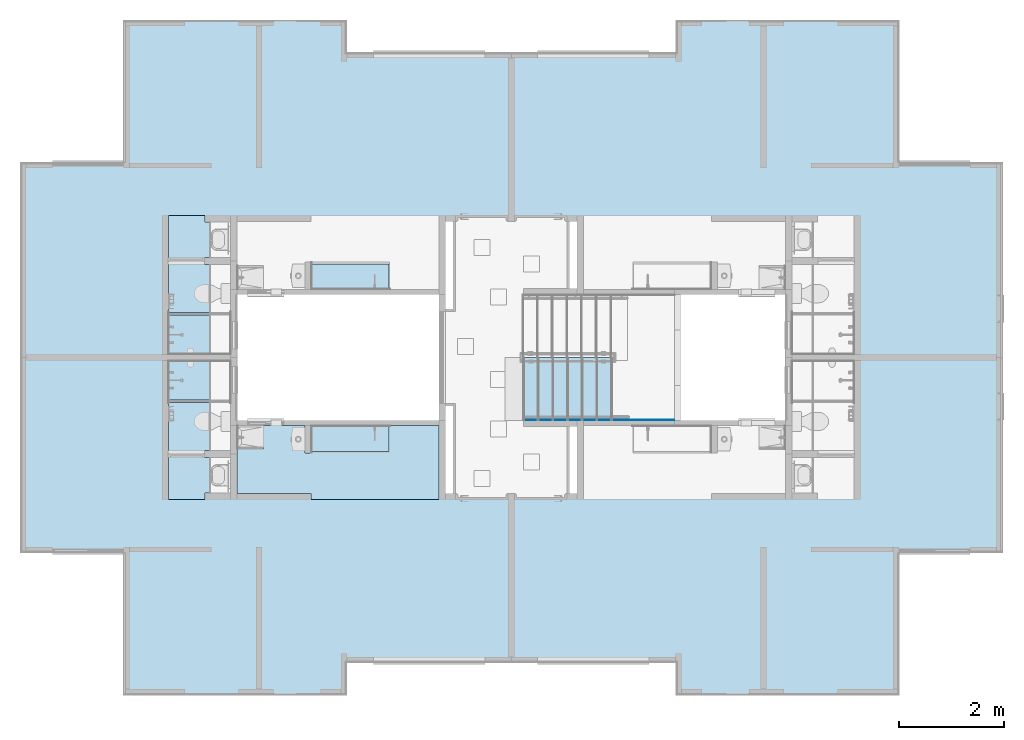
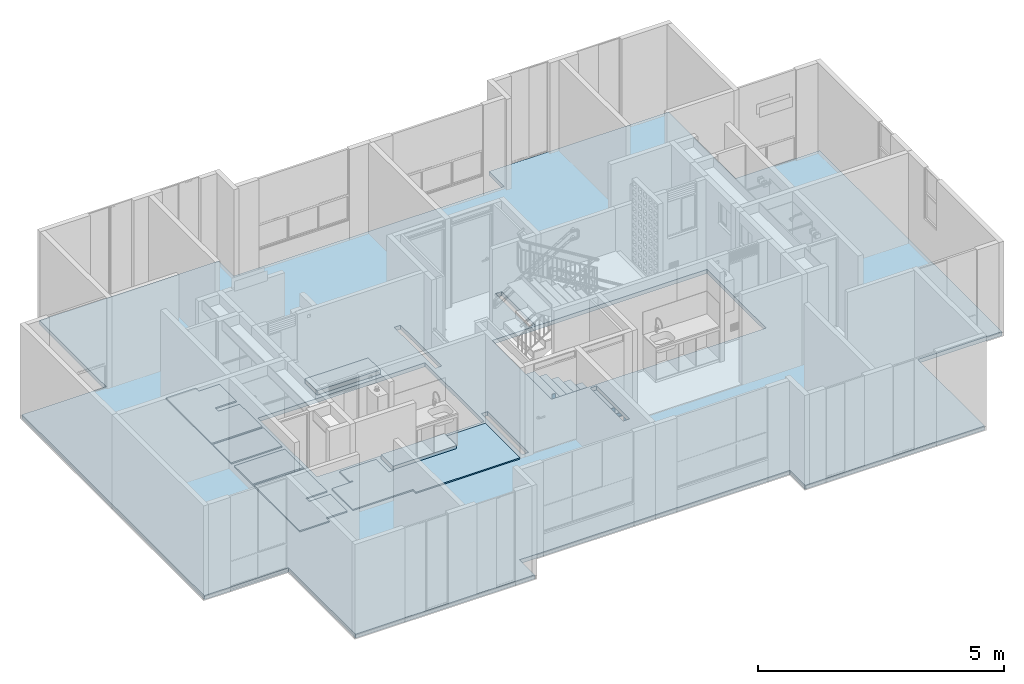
# One storey, part 1 of 48: 13 slabs.
"""IFC4 building model written with IfcOpenShell, lengths in metres."""

from ifc_helpers import new_model, entity, si_unit, converted_unit, derived_unit, direction, frame, origin, place, context, subcontext, project, spatial, indexed_curve, outline, extrude, material, constituent, constituent_set, type_object, element, save


model = new_model("IFC4")

# Units and contexts
model_context = context("Model", 3, precision=1e-05, world=origin(), true_north=direction((6.123031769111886e-17, 1.0)))
body_context = subcontext(model_context, "Body", "Model", "MODEL_VIEW")
ifc_project = project(units=[si_unit("LENGTHUNIT", "METRE"), si_unit("AREAUNIT", "SQUARE_METRE"), si_unit("VOLUMEUNIT", "CUBIC_METRE"), converted_unit("PLANEANGLEUNIT", "DEGREE", entity("IfcRatioMeasure", 0.017453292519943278), si_unit("PLANEANGLEUNIT", "RADIAN"), dimensions=[0, 0, 0, 0, 0, 0, 0]), si_unit("MASSUNIT", "GRAM", prefix="KILO"), derived_unit("MASSDENSITYUNIT", [(si_unit("MASSUNIT", "GRAM", prefix="KILO"), 1), (si_unit("LENGTHUNIT", "METRE"), -3)]), derived_unit("IONCONCENTRATIONUNIT", [(si_unit("MASSUNIT", "GRAM", prefix="KILO"), 1), (si_unit("LENGTHUNIT", "METRE"), -3)]), derived_unit("MOMENTOFINERTIAUNIT", [(si_unit("LENGTHUNIT", "METRE"), 4)]), si_unit("TIMEUNIT", "SECOND"), si_unit("FREQUENCYUNIT", "HERTZ"), si_unit("THERMODYNAMICTEMPERATUREUNIT", "DEGREE_CELSIUS"), derived_unit("THERMALTRANSMITTANCEUNIT", [(si_unit("MASSUNIT", "GRAM", prefix="KILO"), 1), (si_unit("THERMODYNAMICTEMPERATUREUNIT", "KELVIN"), -1), (si_unit("TIMEUNIT", "SECOND"), -3)]), derived_unit("THERMALCONDUCTANCEUNIT", [(si_unit("MASSUNIT", "GRAM", prefix="KILO"), 1), (si_unit("THERMODYNAMICTEMPERATUREUNIT", "KELVIN"), -1), (si_unit("TIMEUNIT", "SECOND"), -3), (si_unit("LENGTHUNIT", "METRE"), 1)]), derived_unit("VOLUMETRICFLOWRATEUNIT", [(si_unit("LENGTHUNIT", "METRE"), 3), (si_unit("TIMEUNIT", "SECOND"), -1)]), derived_unit("MASSFLOWRATEUNIT", [(si_unit("MASSUNIT", "GRAM", prefix="KILO"), 1), (si_unit("TIMEUNIT", "SECOND"), -1)]), derived_unit("ROTATIONALFREQUENCYUNIT", [(si_unit("TIMEUNIT", "SECOND"), -1)]), si_unit("ELECTRICCURRENTUNIT", "AMPERE"), si_unit("ELECTRICVOLTAGEUNIT", "VOLT"), si_unit("POWERUNIT", "WATT"), si_unit("FORCEUNIT", "NEWTON", prefix="KILO"), si_unit("ILLUMINANCEUNIT", "LUX"), si_unit("LUMINOUSFLUXUNIT", "LUMEN"), si_unit("LUMINOUSINTENSITYUNIT", "CANDELA"), derived_unit("USERDEFINED", [(si_unit("MASSUNIT", "GRAM", prefix="KILO"), -1), (si_unit("LENGTHUNIT", "METRE"), -2), (si_unit("TIMEUNIT", "SECOND"), 3), (si_unit("LUMINOUSFLUXUNIT", "LUMEN"), 1)]), derived_unit("USERDEFINED", [(si_unit("MASSUNIT", "GRAM", prefix="KILO"), 1), (si_unit("TIMEUNIT", "SECOND"), -3), (si_unit("LENGTHUNIT", "METRE"), 3), (si_unit("ELECTRICCURRENTUNIT", "AMPERE"), -2)]), derived_unit("SOUNDPOWERUNIT", [(si_unit("MASSUNIT", "GRAM", prefix="KILO"), 1), (si_unit("TIMEUNIT", "SECOND"), -3), (si_unit("LENGTHUNIT", "METRE"), 2)]), derived_unit("SOUNDPRESSUREUNIT", [(si_unit("MASSUNIT", "GRAM", prefix="KILO"), 1), (si_unit("LENGTHUNIT", "METRE"), -1), (si_unit("TIMEUNIT", "SECOND"), -2)]), derived_unit("LINEARVELOCITYUNIT", [(si_unit("LENGTHUNIT", "METRE"), 1), (si_unit("TIMEUNIT", "SECOND"), -1)]), si_unit("PRESSUREUNIT", "PASCAL"), derived_unit("USERDEFINED", [(si_unit("MASSUNIT", "GRAM", prefix="KILO"), 1), (si_unit("LENGTHUNIT", "METRE"), -2), (si_unit("TIMEUNIT", "SECOND"), -2)]), derived_unit("LINEARFORCEUNIT", [(si_unit("MASSUNIT", "GRAM", prefix="KILO"), 1), (si_unit("TIMEUNIT", "SECOND"), -2)]), derived_unit("PLANARFORCEUNIT", [(si_unit("MASSUNIT", "GRAM", prefix="KILO"), 1), (si_unit("LENGTHUNIT", "METRE"), -1), (si_unit("TIMEUNIT", "SECOND"), -2)]), derived_unit("SPECIFICHEATCAPACITYUNIT", [(si_unit("THERMODYNAMICTEMPERATUREUNIT", "KELVIN"), -1), (si_unit("LENGTHUNIT", "METRE"), 2), (si_unit("TIMEUNIT", "SECOND"), -2)]), derived_unit("HEATINGVALUEUNIT", [(si_unit("LENGTHUNIT", "METRE"), 2), (si_unit("TIMEUNIT", "SECOND"), -2)]), derived_unit("VAPORPERMEABILITYUNIT", [(si_unit("LENGTHUNIT", "METRE"), -1), (si_unit("TIMEUNIT", "SECOND"), 1)]), derived_unit("DYNAMICVISCOSITYUNIT", [(si_unit("MASSUNIT", "GRAM", prefix="KILO"), 1), (si_unit("TIMEUNIT", "SECOND"), -1), (si_unit("LENGTHUNIT", "METRE"), -1)]), derived_unit("THERMALEXPANSIONCOEFFICIENTUNIT", [(si_unit("THERMODYNAMICTEMPERATUREUNIT", "KELVIN"), -1)]), derived_unit("MODULUSOFELASTICITYUNIT", [(si_unit("MASSUNIT", "GRAM", prefix="KILO"), 1), (si_unit("LENGTHUNIT", "METRE"), -1), (si_unit("TIMEUNIT", "SECOND"), -2)]), derived_unit("ISOTHERMALMOISTURECAPACITYUNIT", [(si_unit("LENGTHUNIT", "METRE"), 3), (si_unit("MASSUNIT", "GRAM", prefix="KILO"), -1)]), derived_unit("MOISTUREDIFFUSIVITYUNIT", [(si_unit("TIMEUNIT", "SECOND"), -1), (si_unit("LENGTHUNIT", "METRE"), 2)])], contexts=[model_context])

# Site, building, storey
site_placement = place(None, origin())
site = spatial("IfcSite", under=ifc_project, at=site_placement, Name="Default", CompositionType="ELEMENT")
building_placement = place(site_placement, origin())
building = spatial("IfcBuilding", under=site, at=building_placement, CompositionType="ELEMENT")
storey_placement = place(building_placement, frame((0.0, 0.0, 7.050000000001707)))
storey = spatial("IfcBuildingStorey", under=building, at=storey_placement, Name="Nivel 4", CompositionType="ELEMENT", Elevation=7.050000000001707)

# Slabs
ifc_material_1 = material(Name="Ceramica 0.45m x 0.45m gris", Category="Materials")
ifc_constituent_1 = constituent(ifc_material_1, Name="Ceramica 0.45m x 0.45m gris", Category="Materials")
ifc_material_2 = material(Name="Mortero de pega", Category="Materials")
ifc_constituent_2 = constituent(ifc_material_2, Name="Mortero de pega", Category="Materials")
ifc_constituent_set_1 = constituent_set(constituents=[ifc_constituent_1, ifc_constituent_2], Name="Floor:C2030.20 - 0.45 x 0.45 - Enchape cerámico - Mortero de Pega + Cerámica gris")
slab_type_1 = type_object("IfcSlabType", Name="Floor:C2030.20 - 0.45 x 0.45 - Enchape cerámico - Mortero de Pega + Cerámica gris", PredefinedType="FLOOR", material=ifc_constituent_set_1)
slab_1_placement = place(storey_placement, origin())
element("IfcSlab", 1, at=slab_1_placement, inside=storey, type_object=slab_type_1, material=ifc_constituent_set_1, Name="Floor:C2030.20 - 0.45 x 0.45 - Enchape cerámico - Mortero de Pega + Cerámica gris", ObjectType="Floor:C2030.20 - 0.45 x 0.45 - Enchape cerámico - Mortero de Pega + Cerámica gris", PredefinedType="FLOOR", context=body_context, shape_type="SweptSolid", body=[
    extrude(outline(indexed_curve([(-0.592499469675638, -0.3749999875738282), (0.5924994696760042, -0.3749999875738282), (0.5924994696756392, 0.3749999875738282), (-0.5924994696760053, 0.3749999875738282), (-0.592499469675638, -0.3749999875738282)], self_intersect=False)), frame((3.3700005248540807, -5.990000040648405, 0.01999999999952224), z_axis=(0.0, 0.0, 1.0), x_axis=(-1.0, 0.0, 0.0)), (0.0, 0.0, 1.0), 0.009999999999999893),
    extrude(outline(indexed_curve([(-0.1950000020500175, -0.06099936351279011), (-0.19500000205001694, 0.4339995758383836), (-1.109999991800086, 0.43399957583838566), (-1.109999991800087, -0.7509993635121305), (0.7449999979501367, -0.750999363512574), (0.7449999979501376, -0.05600042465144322), (0.6199999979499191, -0.05600042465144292), (0.619999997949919, 0.4339995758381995), (-0.060000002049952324, 0.4339995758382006), (-0.060000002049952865, -0.06099936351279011), (-0.1950000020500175, -0.06099936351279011)], self_intersect=False)), frame((3.5285004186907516, -4.455000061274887, 0.019999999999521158), z_axis=(0.0, 0.0, -1.0), x_axis=(0.0, 1.0, 0.0)), (0.0, 0.0, -1.0), 0.009999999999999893),
    extrude(outline(indexed_curve([(-0.7509993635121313, -1.1099999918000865), (0.4339995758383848, -1.1099999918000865), (0.4339995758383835, -0.19500000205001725), (-0.06099936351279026, -0.1950000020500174), (-0.06099936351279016, -0.06000000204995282), (0.4339995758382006, -0.06000000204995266), (0.4339995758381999, 0.6199999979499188), (-0.05600042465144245, 0.6199999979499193), (-0.05600042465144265, 0.7449999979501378), (-0.750999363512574, 0.7449999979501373), (-0.7509993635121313, -1.1099999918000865)], self_intersect=False)), frame((3.5285004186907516, -4.455000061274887, 0.0)), (0.0, 0.0, 1.0), 0.019999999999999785),
    extrude(outline(indexed_curve([(-0.37499998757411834, -0.5924994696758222), (0.37499998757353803, -0.5924994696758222), (0.37499998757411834, 0.59249946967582), (-0.37499998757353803, 0.5924994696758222), (-0.37499998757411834, -0.5924994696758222)], self_intersect=False)), frame((3.37000052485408, -5.990000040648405, 0.0), z_axis=(0.0, 0.0, 1.0), x_axis=(0.0, 1.0, 0.0)), (0.0, 0.0, 1.0), 0.019999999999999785),
])
slab_2_placement = place(storey_placement, origin())
element("IfcSlab", 2, at=slab_2_placement, inside=storey, type_object=slab_type_1, material=ifc_constituent_set_1, Name="Floor:C2030.20 - 0.45 x 0.45 - Enchape cerámico - Mortero de Pega + Cerámica gris", ObjectType="Floor:C2030.20 - 0.45 x 0.45 - Enchape cerámico - Mortero de Pega + Cerámica gris", PredefinedType="FLOOR", context=body_context, shape_type="SweptSolid", body=[
    extrude(outline(indexed_curve([(-0.5924994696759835, -0.3749999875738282), (0.5924994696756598, -0.3749999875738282), (0.592499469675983, 0.3749999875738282), (-0.5924994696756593, 0.3749999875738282), (-0.5924994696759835, -0.3749999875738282)], self_intersect=False)), frame((3.3700005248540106, -6.860000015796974, 0.01999999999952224), z_axis=(0.0, 0.0, 1.0), x_axis=(-1.0, 0.0, 0.0)), (0.0, 0.0, 1.0), 0.009999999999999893),
    extrude(outline(indexed_curve([(0.19500000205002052, -0.4339995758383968), (1.1099999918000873, -0.4339995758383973), (1.109999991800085, 0.7509993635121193), (-0.7449999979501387, 0.750999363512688), (-0.7449999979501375, 0.05600042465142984), (-0.619999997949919, 0.05600042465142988), (-0.6199999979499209, -0.43399957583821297), (0.0600000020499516, -0.4339995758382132), (0.060000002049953, 0.060999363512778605), (0.19500000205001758, 0.06099936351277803), (0.19500000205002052, -0.4339995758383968)], self_intersect=False)), frame((3.528500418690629, -8.394999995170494, 0.019999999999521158), z_axis=(0.0, 0.0, 1.0), x_axis=(0.0, 1.0, 0.0)), (0.0, 0.0, 1.0), 0.009999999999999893),
    extrude(outline(indexed_curve([(-1.1099999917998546, -0.7509993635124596), (0.744999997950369, -0.7509993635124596), (0.7449999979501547, -0.05600042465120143), (0.6199999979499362, -0.056000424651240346), (0.6199999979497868, 0.4339995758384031), (-0.060000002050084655, 0.4339995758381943), (-0.06000000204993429, -0.06099936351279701), (-0.19500000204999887, -0.060999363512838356), (-0.19500000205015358, 0.43399957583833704), (-1.1099999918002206, 0.43399957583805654), (-1.1099999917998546, -0.7509993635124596)], self_intersect=False)), frame((3.528500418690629, -8.394999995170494, 0.0), z_axis=(0.0, 0.0, 1.0), x_axis=(0.0, -1.0, 0.0)), (0.0, 0.0, 1.0), 0.019999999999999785),
    extrude(outline(indexed_curve([(-0.5924994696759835, -0.3749999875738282), (0.5924994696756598, -0.3749999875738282), (0.5924994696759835, 0.3749999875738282), (-0.5924994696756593, 0.3749999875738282), (-0.5924994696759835, -0.3749999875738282)], self_intersect=False)), frame((3.3700005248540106, -6.860000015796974, 0.0), z_axis=(0.0, 0.0, 1.0), x_axis=(-1.0, 0.0, 0.0)), (0.0, 0.0, 1.0), 0.019999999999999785),
])
slab_3_placement = place(storey_placement, origin())
element("IfcSlab", 3, at=slab_3_placement, inside=storey, type_object=slab_type_1, material=ifc_constituent_set_1, Name="Floor:C2030.20 - 0.45 x 0.45 - Enchape cerámico - Mortero de Pega + Cerámica gris", ObjectType="Floor:C2030.20 - 0.45 x 0.45 - Enchape cerámico - Mortero de Pega + Cerámica gris", PredefinedType="FLOOR", context=body_context, shape_type="SweptSolid", body=[
    extrude(outline(indexed_curve([(-0.06375012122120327, -0.8409999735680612), (2.381249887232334, -0.8409999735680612), (2.3812498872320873, 0.5734999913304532), (1.4212498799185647, 0.5734999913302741), (1.4212498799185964, 0.083999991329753), (-0.06375012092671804, 0.08399999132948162), (-0.06375012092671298, 0.05399999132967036), (-0.17875012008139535, 0.053999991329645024), (-0.1787501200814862, 0.573499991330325), (-1.038749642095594, 0.5734999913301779), (-1.0387496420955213, 0.1579999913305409), (-0.9787496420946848, 0.15799999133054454), (-0.9787496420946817, 0.12399999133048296), (-1.4787501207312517, 0.12399999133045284), (-1.4787501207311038, -0.7259999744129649), (-0.06375012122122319, -0.725999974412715), (-0.06375012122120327, -0.8409999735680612)], self_intersect=False)), frame((5.566250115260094, -8.299000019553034, 0.01999999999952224)), (0.0, 0.0, 1.0), 0.009999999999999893),
    extrude(outline(indexed_curve([(-0.06375012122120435, -0.8409999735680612), (2.381249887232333, -0.8409999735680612), (2.3812498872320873, 0.5734999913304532), (1.4212498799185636, 0.5734999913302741), (1.4212498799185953, 0.083999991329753), (-0.06375012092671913, 0.08399999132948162), (-0.06375012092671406, 0.05399999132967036), (-0.17875012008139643, 0.053999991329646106), (-0.17875012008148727, 0.573499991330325), (-1.038749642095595, 0.5734999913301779), (-1.038749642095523, 0.1579999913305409), (-0.978749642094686, 0.15799999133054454), (-0.9787496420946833, 0.12399999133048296), (-1.4787501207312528, 0.12399999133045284), (-1.478750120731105, -0.7259999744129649), (-0.06375012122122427, -0.725999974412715), (-0.06375012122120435, -0.8409999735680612)], self_intersect=False)), frame((5.566250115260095, -8.299000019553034, 0.0)), (0.0, 0.0, 1.0), 0.019999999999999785),
])
ifc_material_3 = material(Name="Concreto (Aire)", Category="Materials")
slab_type_2 = type_object("IfcSlabType", Name="Floor:B1010 - 0.10m - Placa Entrepiso - Concreto", PredefinedType="FLOOR", material=ifc_material_3)
slab_4_placement = place(storey_placement, origin())
element("IfcSlab", 4, at=slab_4_placement, inside=storey, type_object=slab_type_2, material=ifc_material_3, Name="Floor:B1010 - 0.10m - Placa Entrepiso - Concreto", ObjectType="Floor:B1010 - 0.10m - Placa Entrepiso - Concreto", PredefinedType="FLOOR", context=body_context, shape_type="SweptSolid", body=[
    extrude(outline(indexed_curve([(-7.375000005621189, -6.415000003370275), (-3.170000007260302, -6.415000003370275), (-3.170000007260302, -5.8000000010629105), (3.1700000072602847, -5.8000000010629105), (3.1700000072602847, -6.415000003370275), (7.3750000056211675, -6.415000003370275), (7.3750000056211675, -3.6999999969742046), (9.350000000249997, -3.699999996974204), (9.350000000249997, 3.6999999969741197), (7.375000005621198, 3.6999999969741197), (7.375000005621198, 6.415000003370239), (3.1700000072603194, 6.415000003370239), (3.1700000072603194, 5.800000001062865), (-3.170000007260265, 5.800000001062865), (-3.170000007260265, 6.415000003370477), (-7.375000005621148, 6.415000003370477), (-7.375000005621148, 3.6999999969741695), (-9.350000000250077, 3.6999999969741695), (-9.350000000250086, -3.6999999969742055), (-7.375000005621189, -3.6999999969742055), (-7.375000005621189, -6.415000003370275)], self_intersect=False), holes=[indexed_curve([(-5.2650000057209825, -1.2000000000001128), (-5.2650000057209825, 1.199999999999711), (-3.2801695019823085, 1.199999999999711), (-0.23000000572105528, 1.1999999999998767), (-0.23000000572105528, -1.2000000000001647), (-3.3596649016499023, -1.2000000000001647), (-5.2650000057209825, -1.2000000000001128)], self_intersect=False), indexed_curve([(5.265000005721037, -1.2000000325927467), (1.3449999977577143, -1.2000000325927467), (1.3449999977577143, 1.2000000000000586), (5.265000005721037, 1.2000000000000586), (5.265000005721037, -1.2000000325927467)], self_intersect=False), indexed_curve([(-1.2599999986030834, -2.5999999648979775), (-1.2599999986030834, -1.250000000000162), (-1.1099999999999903, -1.250000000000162), (-1.1099999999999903, -2.5999999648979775), (-1.2599999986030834, -2.5999999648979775)], self_intersect=False), indexed_curve([(-1.2599999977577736, 1.2500000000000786), (-1.2599999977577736, 2.599999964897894), (-1.1099999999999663, 2.599999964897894), (-1.1099999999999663, 1.2500000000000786), (-1.2599999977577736, 1.2500000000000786)], self_intersect=False), indexed_curve([(1.2599999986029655, 0.9299999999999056), (1.1100000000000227, 0.9299999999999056), (1.1100000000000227, 2.5999999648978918), (1.2599999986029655, 2.5999999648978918), (1.2599999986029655, 0.9299999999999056)], self_intersect=False), indexed_curve([(1.110000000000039, -2.5999999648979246), (1.110000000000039, -0.9299999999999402), (1.2599999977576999, -0.9299999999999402), (1.2599999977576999, -2.5999999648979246), (1.110000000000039, -2.5999999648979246)], self_intersect=False)]), frame((9.322500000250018, -6.425000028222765, -0.09999999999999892), z_axis=(0.0, 0.0, 1.0), x_axis=(-1.0, 0.0, 0.0)), (0.0, 0.0, 1.0), 0.1),
])
ifc_material_4 = material(Name="escalgres", Category="Materials")
ifc_constituent_3 = constituent(ifc_material_4, Name="escalgres", Category="Materials")
ifc_constituent_4 = constituent(ifc_material_2, Name="Mortero de pega", Category="Materials")
ifc_constituent_set_2 = constituent_set(constituents=[ifc_constituent_3, ifc_constituent_4], Name="Floor:C2030.20 -30x30- Escalgres - Gres")
slab_type_3 = type_object("IfcSlabType", Name="Floor:C2030.20 -30x30- Escalgres - Gres", PredefinedType="FLOOR", material=ifc_constituent_set_2)
slab_5_placement = place(storey_placement, origin())
element("IfcSlab", 5, at=slab_5_placement, inside=storey, type_object=slab_type_3, material=ifc_constituent_set_2, Name="Floor:C2030.20 -30x30- Escalgres - Gres", ObjectType="Floor:C2030.20 -30x30- Escalgres - Gres", PredefinedType="FLOOR", context=body_context, shape_type="SweptSolid", body=[
    extrude(outline(indexed_curve([(-0.1475000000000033, -0.6000000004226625), (0.14750000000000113, -0.6000000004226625), (0.14750000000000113, 0.6000000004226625), (-0.1475000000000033, 0.6000000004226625), (-0.1475000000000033, -0.6000000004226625)], self_intersect=False)), frame((11.10000000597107, -7.025000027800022, -0.987142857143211)), (0.0, 0.0, 1.0), 0.009999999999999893),
    extrude(outline(indexed_curve([(-0.6000000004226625, -0.1475000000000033), (0.6000000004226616, -0.1475000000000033), (0.6000000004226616, 0.14750000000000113), (-0.6000000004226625, 0.14750000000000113), (-0.6000000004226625, -0.1475000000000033)], self_intersect=False)), frame((11.10000000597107, -7.025000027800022, -1.0071428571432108), z_axis=(0.0, 0.0, 1.0), x_axis=(0.0, -1.0, 0.0)), (0.0, 0.0, 1.0), 0.019999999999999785),
])
slab_6_placement = place(storey_placement, origin())
element("IfcSlab", 6, at=slab_6_placement, inside=storey, type_object=slab_type_3, material=ifc_constituent_set_2, Name="Floor:C2030.20 -30x30- Escalgres - Gres", ObjectType="Floor:C2030.20 -30x30- Escalgres - Gres", PredefinedType="FLOOR", context=body_context, shape_type="SweptSolid", body=[
    extrude(outline(indexed_curve([(-0.1475000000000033, -0.6000000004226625), (0.14750000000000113, -0.6000000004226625), (0.14750000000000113, 0.6000000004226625), (-0.1475000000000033, 0.6000000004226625), (-0.1475000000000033, -0.6000000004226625)], self_intersect=False)), frame((10.820000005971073, -7.025000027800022, -0.8192857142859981)), (0.0, 0.0, 1.0), 0.009999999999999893),
    extrude(outline(indexed_curve([(-0.6000000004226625, -0.1475000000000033), (0.6000000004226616, -0.1475000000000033), (0.6000000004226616, 0.14750000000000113), (-0.6000000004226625, 0.14750000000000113), (-0.6000000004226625, -0.1475000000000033)], self_intersect=False)), frame((10.820000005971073, -7.025000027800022, -0.8392857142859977), z_axis=(0.0, 0.0, 1.0), x_axis=(0.0, -1.0, 0.0)), (0.0, 0.0, 1.0), 0.019999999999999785),
])
slab_7_placement = place(storey_placement, origin())
element("IfcSlab", 7, at=slab_7_placement, inside=storey, type_object=slab_type_3, material=ifc_constituent_set_2, Name="Floor:C2030.20 -30x30- Escalgres - Gres", ObjectType="Floor:C2030.20 -30x30- Escalgres - Gres", PredefinedType="FLOOR", context=body_context, shape_type="SweptSolid", body=[
    extrude(outline(indexed_curve([(-0.1475000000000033, -0.6000000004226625), (0.14750000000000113, -0.6000000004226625), (0.14750000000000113, 0.6000000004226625), (-0.1475000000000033, 0.6000000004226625), (-0.1475000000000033, -0.6000000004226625)], self_intersect=False)), frame((10.540000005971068, -7.025000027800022, -0.651428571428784)), (0.0, 0.0, 1.0), 0.009999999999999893),
    extrude(outline(indexed_curve([(-0.6000000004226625, -0.1475000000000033), (0.6000000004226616, -0.1475000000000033), (0.6000000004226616, 0.14750000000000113), (-0.6000000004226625, 0.14750000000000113), (-0.6000000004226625, -0.1475000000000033)], self_intersect=False)), frame((10.540000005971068, -7.025000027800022, -0.6714285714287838), z_axis=(0.0, 0.0, 1.0), x_axis=(0.0, -1.0, 0.0)), (0.0, 0.0, 1.0), 0.019999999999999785),
])
slab_8_placement = place(storey_placement, origin())
element("IfcSlab", 8, at=slab_8_placement, inside=storey, type_object=slab_type_3, material=ifc_constituent_set_2, Name="Floor:C2030.20 -30x30- Escalgres - Gres", ObjectType="Floor:C2030.20 -30x30- Escalgres - Gres", PredefinedType="FLOOR", context=body_context, shape_type="SweptSolid", body=[
    extrude(outline(indexed_curve([(-0.1475000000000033, -0.6000000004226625), (0.14750000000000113, -0.6000000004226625), (0.14750000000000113, 0.6000000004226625), (-0.1475000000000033, 0.6000000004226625), (-0.1475000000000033, -0.6000000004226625)], self_intersect=False)), frame((10.26000000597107, -7.025000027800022, -0.4835714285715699)), (0.0, 0.0, 1.0), 0.009999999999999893),
    extrude(outline(indexed_curve([(-0.6000000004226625, -0.1475000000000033), (0.6000000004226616, -0.1475000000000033), (0.6000000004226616, 0.14750000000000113), (-0.6000000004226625, 0.14750000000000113), (-0.6000000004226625, -0.1475000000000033)], self_intersect=False)), frame((10.26000000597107, -7.025000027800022, -0.5035714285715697), z_axis=(0.0, 0.0, 1.0), x_axis=(0.0, -1.0, 0.0)), (0.0, 0.0, 1.0), 0.019999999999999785),
])
slab_9_placement = place(storey_placement, origin())
element("IfcSlab", 9, at=slab_9_placement, inside=storey, type_object=slab_type_3, material=ifc_constituent_set_2, Name="Floor:C2030.20 -30x30- Escalgres - Gres", ObjectType="Floor:C2030.20 -30x30- Escalgres - Gres", PredefinedType="FLOOR", context=body_context, shape_type="SweptSolid", body=[
    extrude(outline(indexed_curve([(-0.1475000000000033, -0.6000000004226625), (0.14750000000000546, -0.6000000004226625), (0.14750000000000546, 0.6000000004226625), (-0.1475000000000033, 0.6000000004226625), (-0.1475000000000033, -0.6000000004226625)], self_intersect=False)), frame((9.98000000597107, -7.025000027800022, -0.3157142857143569)), (0.0, 0.0, 1.0), 0.009999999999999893),
    extrude(outline(indexed_curve([(-0.6000000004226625, -0.1475000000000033), (0.6000000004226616, -0.1475000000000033), (0.6000000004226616, 0.14750000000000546), (-0.6000000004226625, 0.14750000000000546), (-0.6000000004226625, -0.1475000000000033)], self_intersect=False)), frame((9.98000000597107, -7.025000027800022, -0.3357142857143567), z_axis=(0.0, 0.0, 1.0), x_axis=(0.0, -1.0, 0.0)), (0.0, 0.0, 1.0), 0.019999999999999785),
])
slab_10_placement = place(storey_placement, origin())
element("IfcSlab", 10, at=slab_10_placement, inside=storey, type_object=slab_type_3, material=ifc_constituent_set_2, Name="Floor:C2030.20 -30x30- Escalgres - Gres", ObjectType="Floor:C2030.20 -30x30- Escalgres - Gres", PredefinedType="FLOOR", context=body_context, shape_type="SweptSolid", body=[
    extrude(outline(indexed_curve([(-0.1475000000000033, -0.6000000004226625), (0.1475000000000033, -0.6000000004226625), (0.1475000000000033, 0.6000000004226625), (-0.1475000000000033, 0.6000000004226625), (-0.1475000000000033, -0.6000000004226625)], self_intersect=False)), frame((9.70000000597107, -7.025000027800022, -0.14785714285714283)), (0.0, 0.0, 1.0), 0.009999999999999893),
    extrude(outline(indexed_curve([(-0.6000000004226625, -0.1475000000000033), (0.6000000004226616, -0.1475000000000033), (0.6000000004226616, 0.1475000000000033), (-0.6000000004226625, 0.1475000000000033), (-0.6000000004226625, -0.1475000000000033)], self_intersect=False)), frame((9.70000000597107, -7.025000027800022, -0.1678571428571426), z_axis=(0.0, 0.0, 1.0), x_axis=(0.0, -1.0, 0.0)), (0.0, 0.0, 1.0), 0.019999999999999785),
])
slab_type_4 = type_object("IfcSlabType", Name="Floor:B1010 - 0.10m - Poyo - Concreto", PredefinedType="FLOOR", material=ifc_material_3)
slab_11_placement = place(storey_placement, origin())
element("IfcSlab", 11, at=slab_11_placement, inside=storey, type_object=slab_type_4, material=ifc_material_3, Name="Floor:B1010 - 0.10m - Poyo - Concreto", ObjectType="Floor:B1010 - 0.10m - Poyo - Concreto", PredefinedType="FLOOR", context=body_context, shape_type="SweptSolid", body=[
    extrude(outline(indexed_curve([(-0.24475000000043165, -0.7425000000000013), (0.2447500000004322, -0.7425000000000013), (0.2447500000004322, 0.7425000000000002), (-0.24475000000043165, 0.7425000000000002), (-0.24475000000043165, -0.7425000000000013)], self_intersect=False)), frame((6.2449999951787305, -4.879750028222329, 0.10999999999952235), z_axis=(0.0, 0.0, -1.0), x_axis=(0.0, 1.0, 0.0)), (0.0, 0.0, 1.0), 0.1099999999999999),
])
slab_12_placement = place(storey_placement, origin())
element("IfcSlab", 12, at=slab_12_placement, inside=storey, type_object=slab_type_4, material=ifc_material_3, Name="Floor:B1010 - 0.10m - Poyo - Concreto", ObjectType="Floor:B1010 - 0.10m - Poyo - Concreto", PredefinedType="FLOOR", context=body_context, shape_type="SweptSolid", body=[
    extrude(outline(indexed_curve([(-0.2447500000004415, -0.7425000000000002), (0.2447500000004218, -0.7425000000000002), (0.2447500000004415, 0.7425000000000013), (-0.2447500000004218, 0.7425000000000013), (-0.2447500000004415, -0.7425000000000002)], self_intersect=False)), frame((6.24499999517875, -7.970250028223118, 0.10999999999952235), z_axis=(0.0, 0.0, -1.0), x_axis=(0.0, 1.0, 0.0)), (0.0, 0.0, 1.0), 0.1099999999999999),
])
ifc_material_5 = material(Name="PISO GRES SAHARA 30X30 guardaescoba sin hatch", Category="Materials")
slab_type_5 = type_object("IfcSlabType", Name="Floors 4:Floors 2", PredefinedType="FLOOR", material=ifc_material_5)
slab_13_placement = place(storey_placement, origin())
element("IfcSlab", 13, at=slab_13_placement, inside=storey, type_object=slab_type_5, Name="Floors 4:Floors 2", ObjectType="Floors 4:Floors 2", PredefinedType="FLOOR", context=body_context, shape_type="SweptSolid", body=[
    extrude(outline(indexed_curve([(-1.8526666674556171, -0.5909921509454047), (-0.6676666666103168, -0.5909921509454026), (-0.6676666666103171, -0.4231350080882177), (-0.38766666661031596, -0.4231350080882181), (-0.3876666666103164, -0.25527786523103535), (-0.10766666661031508, -0.2552778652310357), (-0.10766666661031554, -0.08742072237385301), (0.1723333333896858, -0.08742072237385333), (0.17233333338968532, 0.08043642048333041), (0.45233333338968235, 0.08043642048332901), (0.452333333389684, 0.24829356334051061), (0.732333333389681, 0.2482935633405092), (0.7323333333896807, 0.4161507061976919), (1.0123333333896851, 0.41615070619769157), (1.0123333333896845, 0.6638901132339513), (0.9323333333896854, 0.6638901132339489), (0.9323333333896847, 0.4961507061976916), (0.6523333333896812, 0.49615070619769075), (0.6523333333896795, 0.32829356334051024), (0.3723333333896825, 0.3282935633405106), (0.37233333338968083, 0.1604364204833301), (0.09233333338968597, 0.16043642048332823), (0.09233333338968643, -0.007420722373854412), (-0.1876666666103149, -0.007420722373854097), (-0.18766666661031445, -0.17527786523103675), (-0.46766666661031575, -0.17527786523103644), (-0.4676666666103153, -0.3431350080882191), (-0.7476666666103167, -0.3431350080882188), (-0.7476666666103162, -0.5109921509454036), (-1.8526666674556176, -0.5109921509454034), (-1.8526666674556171, -0.5909921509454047)], self_intersect=False)), frame((10.579727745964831, -7.625000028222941, -0.5540078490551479), z_axis=(0.0, 1.0, 0.0), x_axis=(-1.0, 0.0, 0.0)), (0.0, 0.0, 1.0), 0.009999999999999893),
])

save(model, "model.ifc")
